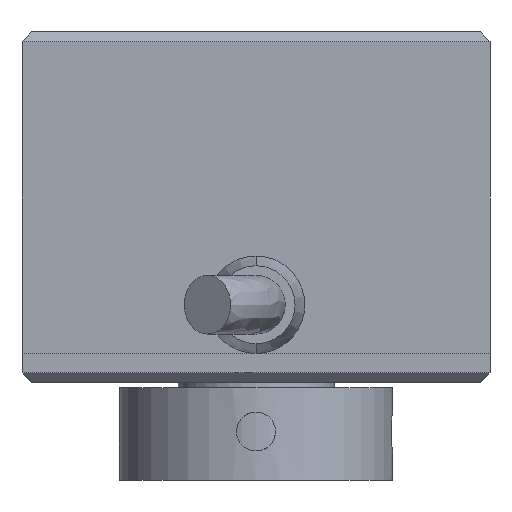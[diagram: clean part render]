
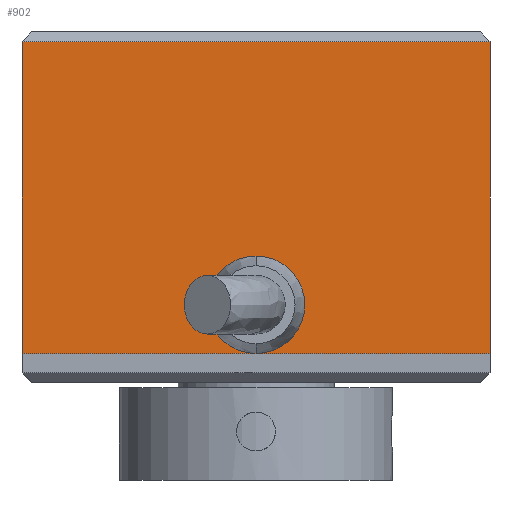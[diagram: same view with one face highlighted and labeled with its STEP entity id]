
A CAD part, front view. The second image highlights one B-rep face of the part: STEP entity #902.
In plain terms, the highlighted planar face has unit normal (0, -1, 0).
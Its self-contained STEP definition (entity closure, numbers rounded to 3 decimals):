
#7 = AXIS2_PLACEMENT_3D ( 'NONE', #532, #1503, #237 ) ;
#25 = DIRECTION ( 'NONE',  ( 0., 0., -1. ) ) ;
#82 = ORIENTED_EDGE ( 'NONE', *, *, #1227, .T. ) ;
#92 = AXIS2_PLACEMENT_3D ( 'NONE', #1248, #545, #1109 ) ;
#93 = VECTOR ( 'NONE', #976, 1000. ) ;
#108 = CARTESIAN_POINT ( 'NONE',  ( 0., -22., 5. ) ) ;
#128 = CARTESIAN_POINT ( 'NONE',  ( 0., -22., 0. ) ) ;
#232 = CARTESIAN_POINT ( 'NONE',  ( 12., -22., 16. ) ) ;
#237 = DIRECTION ( 'NONE',  ( 0., 0., 1. ) ) ;
#254 = ORIENTED_EDGE ( 'NONE', *, *, #995, .F. ) ;
#274 = VECTOR ( 'NONE', #1383, 1000. ) ;
#281 = VERTEX_POINT ( 'NONE', #1767 ) ;
#304 = CARTESIAN_POINT ( 'NONE',  ( -12., -22., 16. ) ) ;
#354 = LINE ( 'NONE', #1490, #533 ) ;
#361 = CIRCLE ( 'NONE', #92, 2.5 ) ;
#362 = VERTEX_POINT ( 'NONE', #232 ) ;
#378 = DIRECTION ( 'NONE',  ( 0., 0., -1. ) ) ;
#396 = FACE_OUTER_BOUND ( 'NONE', #755, .T. ) ;
#400 = LINE ( 'NONE', #128, #1220 ) ;
#403 = EDGE_CURVE ( 'NONE', #1096, #815, #400, .T. ) ;
#454 = VERTEX_POINT ( 'NONE', #304 ) ;
#532 = CARTESIAN_POINT ( 'NONE',  ( 0., -22., 16.5 ) ) ;
#533 = VECTOR ( 'NONE', #1751, 1000. ) ;
#545 = DIRECTION ( 'NONE',  ( 0., -1., 0. ) ) ;
#546 = ORIENTED_EDGE ( 'NONE', *, *, #962, .F. ) ;
#567 = ORIENTED_EDGE ( 'NONE', *, *, #403, .T. ) ;
#755 = EDGE_LOOP ( 'NONE', ( #1768, #546, #1533, #567, #254, #82, #1780 ) ) ;
#762 = VECTOR ( 'NONE', #25, 1000. ) ;
#786 = DIRECTION ( 'NONE',  ( 0., -1., 0. ) ) ;
#815 = VERTEX_POINT ( 'NONE', #1641 ) ;
#817 = CARTESIAN_POINT ( 'NONE',  ( 0., -22., 0. ) ) ;
#829 = LINE ( 'NONE', #817, #274 ) ;
#855 = EDGE_CURVE ( 'NONE', #1096, #887, #1752, .T. ) ;
#887 = VERTEX_POINT ( 'NONE', #108 ) ;
#902 = ADVANCED_FACE ( 'NONE', ( #396 ), #1667, .F. ) ;
#956 = EDGE_CURVE ( 'NONE', #281, #1096, #829, .T. ) ;
#962 = EDGE_CURVE ( 'NONE', #887, #1096, #361, .T. ) ;
#964 = DIRECTION ( 'NONE',  ( 1., 0., 0. ) ) ;
#976 = DIRECTION ( 'NONE',  ( 0., 0., -1. ) ) ;
#995 = EDGE_CURVE ( 'NONE', #362, #815, #1552, .T. ) ;
#1096 = VERTEX_POINT ( 'NONE', #1129 ) ;
#1109 = DIRECTION ( 'NONE',  ( 0., 0., -1. ) ) ;
#1129 = CARTESIAN_POINT ( 'NONE',  ( 0., -22., 0. ) ) ;
#1214 = AXIS2_PLACEMENT_3D ( 'NONE', #1260, #786, #378 ) ;
#1220 = VECTOR ( 'NONE', #964, 1000. ) ;
#1227 = EDGE_CURVE ( 'NONE', #362, #454, #354, .T. ) ;
#1248 = CARTESIAN_POINT ( 'NONE',  ( 0., -22., 2.5 ) ) ;
#1260 = CARTESIAN_POINT ( 'NONE',  ( 0., -22., 2.5 ) ) ;
#1268 = CARTESIAN_POINT ( 'NONE',  ( 12., -22., 16.5 ) ) ;
#1383 = DIRECTION ( 'NONE',  ( 1., 0., 0. ) ) ;
#1462 = EDGE_CURVE ( 'NONE', #454, #281, #1800, .T. ) ;
#1490 = CARTESIAN_POINT ( 'NONE',  ( -12., -22., 16. ) ) ;
#1503 = DIRECTION ( 'NONE',  ( 0., 1., 0. ) ) ;
#1533 = ORIENTED_EDGE ( 'NONE', *, *, #855, .F. ) ;
#1540 = CARTESIAN_POINT ( 'NONE',  ( -12., -22., 16.5 ) ) ;
#1552 = LINE ( 'NONE', #1268, #762 ) ;
#1641 = CARTESIAN_POINT ( 'NONE',  ( 12., -22., 0. ) ) ;
#1667 = PLANE ( 'NONE',  #7 ) ;
#1751 = DIRECTION ( 'NONE',  ( -1., 0., 0. ) ) ;
#1752 = CIRCLE ( 'NONE', #1214, 2.5 ) ;
#1767 = CARTESIAN_POINT ( 'NONE',  ( -12., -22., 0. ) ) ;
#1768 = ORIENTED_EDGE ( 'NONE', *, *, #956, .T. ) ;
#1780 = ORIENTED_EDGE ( 'NONE', *, *, #1462, .T. ) ;
#1800 = LINE ( 'NONE', #1540, #93 ) ;
